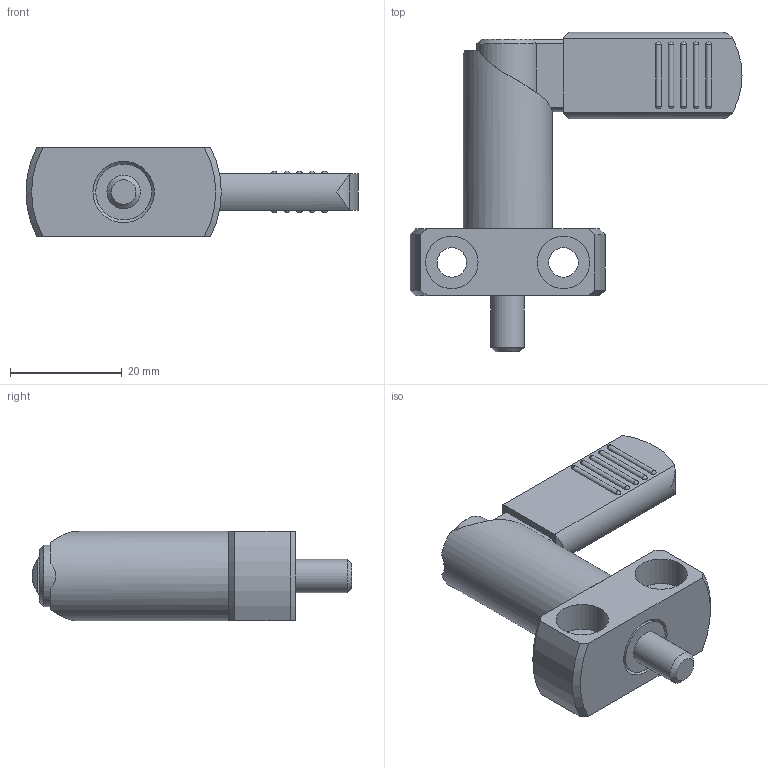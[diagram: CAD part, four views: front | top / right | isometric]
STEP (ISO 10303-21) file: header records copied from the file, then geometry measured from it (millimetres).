
FILE_DESCRIPTION( ( 'STEP AP203' ), '1' );
FILE_NAME( 'C:/Temp/Ganter_Step_05_03_2020/data/3_1/gn612_2/Indexing plunger GN 612.2-6-16-B (deactivated).stp', '2020-03-12T08:35:09', ( 'License CC BY-ND 4.0' ), ( 'CADENAS' ), ' ', 'PARTsolutions', ' ' );
FILE_SCHEMA( ( 'CONFIG_CONTROL_DESIGN' ) );
Length unit declared in the file: millimetre
Products named in the file (3): Indexing plunger GN 612.2-6-16-B (deactivated); _Rastriegel GN 612.2-6-16-B (unbetaetigt)-a; _Rastriegel GN 612.2-6-16-B (unbetaetigt)-b
Assembly tree (2 placements, depth 2):
  Indexing plunger GN 612.2-6-16-B (deactivated)
    _Rastriegel GN 612.2-6-16-B (unbetaetigt)-a
    _Rastriegel GN 612.2-6-16-B (unbetaetigt)-b
Bounding box: 59.5 x 57.25 x 16 mm (x, y, z)
Volume: 13710.9 mm3; surface area: 8681.1 mm2
Topology: 2 solids, 2 shells, 103 faces, 265 edges, 167 vertices
Faces by surface type: cylinder 44, plane 29, sphere 20, cone 9, torus 1
Full cylindrical faces by diameter (mm): 5.3 x2, 6 x3, 7.4 x1, 7.6 x1, 9.4 x4, 10 x2, 11 x1, 12 x1, 16 x1
Entity records: 3075 total; most frequent: CARTESIAN_POINT 754, DIRECTION 479, ORIENTED_EDGE 406, AXIS2_PLACEMENT_3D 208, EDGE_CURVE 203, EDGE_LOOP 150, VERTEX_POINT 145, FACE_OUTER_BOUND 119
